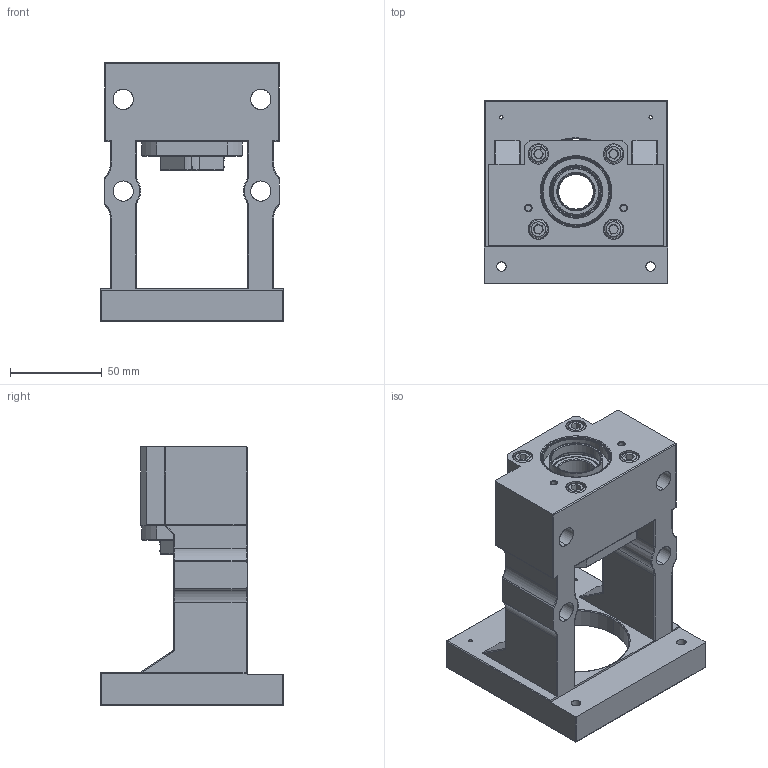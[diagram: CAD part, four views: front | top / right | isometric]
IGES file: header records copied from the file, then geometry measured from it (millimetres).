
Start section: SolidWorks IGES file using analytic representation for surfaces
Global section: file name: C:\Users\117\Desktop\1061208網站3D圖檔問題處理\傳動座\整合型\MBCS(F)\MBCF20\MBCF20-YP.IGS,15HSolidWorks; native system: 2017; preprocessor: SolidWorks 2017; author: 117; date: 171228.152905; units: millimetre
Bounding box: 100 x 100 x 141 mm (x, y, z)
Surface area: 86262.6 mm2 (no closed solid volume)
Topology: 0 solids, 0 shells, 374 faces, 5326 edges, 5318 vertices
Faces by surface type: revolution 206, bspline 168
